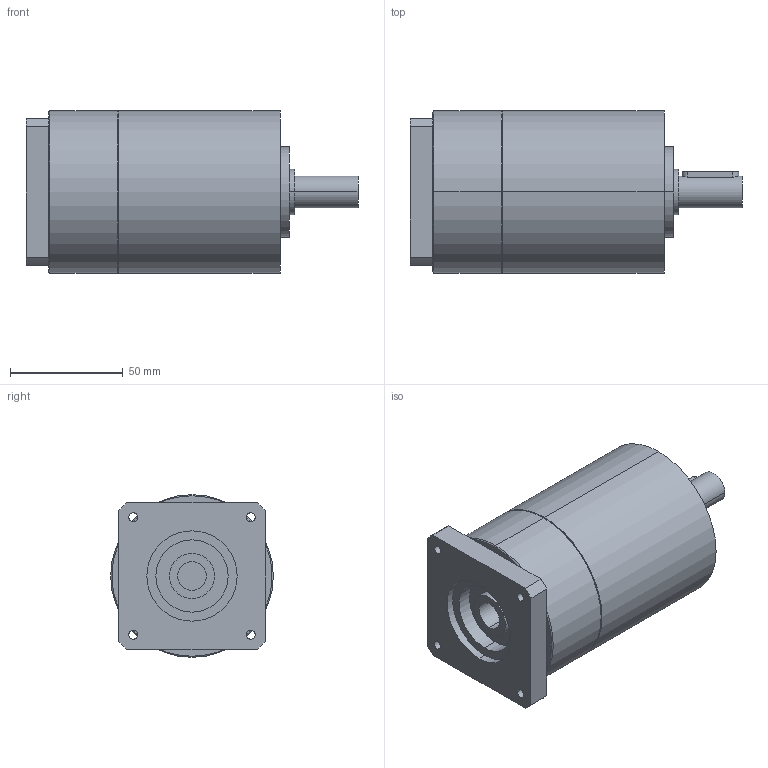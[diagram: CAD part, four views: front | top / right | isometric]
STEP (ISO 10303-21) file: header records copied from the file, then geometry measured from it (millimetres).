
FILE_DESCRIPTION(('CoCreate Modeling STEP Export'),'2;1');
FILE_NAME('GPT75_ig-9-12-16-20-25-28-35-40-50-70-100_14_B14T_12.7_P34.stp','2014-08-27T13:15:54',(''),(''),'CoCreate Modeling STEP processor for AP214 (Solid Model)','CoCreate Modeling 16.00C 25-Feb-2009 (C) Parametric Technology GmbH','');
FILE_SCHEMA(('AUTOMOTIVE_DESIGN { 1 0 10303 214 1 1 1 1 }'));
Length unit declared in the file: millimetre
Products named in the file (2): GPT75_ig-9-12-16-20-25-28-35-40-50-70-100_14_B14T_12.7_P34
Assembly tree (1 placements, depth 2):
  GPT75_ig-9-12-16-20-25-28-35-40-50-70-100_14_B14T_12.7_P34
    GPT75_ig-9-12-16-20-25-28-35-40-50-70-100_14_B14T_12.7_P34
Bounding box: 147 x 72 x 72 mm (x, y, z)
Volume: 455550.9 mm3; surface area: 40722 mm2
Topology: 1 solids, 1 shells, 80 faces, 198 edges, 129 vertices
Faces by surface type: cylinder 42, plane 34, cone 4
Entity records: 2353 total; most frequent: CARTESIAN_POINT 689, ORIENTED_EDGE 396, DIRECTION 276, EDGE_CURVE 198, VERTEX_POINT 129, AXIS2_PLACEMENT_3D 104, EDGE_LOOP 97, FACE_OUTER_BOUND 80
